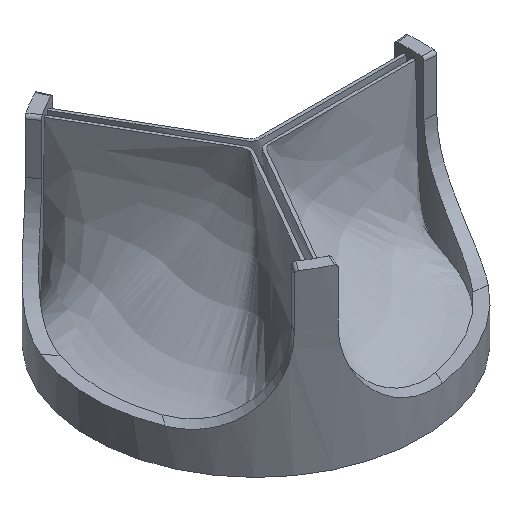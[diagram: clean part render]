
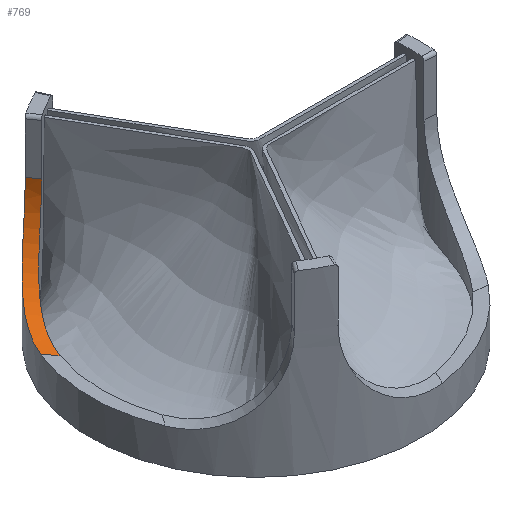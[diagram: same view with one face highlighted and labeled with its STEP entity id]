
A CAD part, isometric view. The second image highlights one B-rep face of the part: STEP entity #769.
In plain terms, the highlighted cylindrical face has radius 7.5 mm (diameter 15 mm), a partial arc.
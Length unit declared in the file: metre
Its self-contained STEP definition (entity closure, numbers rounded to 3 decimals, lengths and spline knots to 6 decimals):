
#39=CYLINDRICAL_SURFACE('',#844,0.0075);
#87=LINE('',#2533,#129);
#109=LINE('',#2609,#151);
#129=VECTOR('',#921,1.);
#151=VECTOR('',#981,1.);
#372=ORIENTED_EDGE('',*,*,#451,.F.);
#373=ORIENTED_EDGE('',*,*,#499,.F.);
#374=ORIENTED_EDGE('',*,*,#512,.F.);
#375=ORIENTED_EDGE('',*,*,#468,.F.);
#451=EDGE_CURVE('',#564,#565,#630,.T.);
#468=EDGE_CURVE('',#565,#579,#87,.T.);
#499=EDGE_CURVE('',#599,#564,#109,.F.);
#512=EDGE_CURVE('',#579,#599,#648,.T.);
#564=VERTEX_POINT('',#2465);
#565=VERTEX_POINT('',#2473);
#579=VERTEX_POINT('',#2530);
#599=VERTEX_POINT('',#2608);
#630=B_SPLINE_CURVE_WITH_KNOTS('',3,(#2466,#2467,#2468,#2469,#2470,#2471,
#2472),.UNSPECIFIED.,.F.,.F.,(4,1,1,1,4),(0.,0.003047,0.006093,
0.00914,0.012186),.UNSPECIFIED.);
#648=B_SPLINE_CURVE_WITH_KNOTS('',3,(#2664,#2665,#2666,#2667,#2668,#2669,
#2670),.UNSPECIFIED.,.F.,.F.,(4,1,1,1,4),(0.,0.003029,
0.006058,0.009088,0.012117),
 .UNSPECIFIED.);
#685=EDGE_LOOP('',(#372,#373,#374,#375));
#727=FACE_BOUND('',#685,.T.);
#769=ADVANCED_FACE('',(#727),#39,.F.);
#844=AXIS2_PLACEMENT_3D('',#2679,#1006,#1007);
#921=DIRECTION('',(-0.582,0.814,0.));
#981=DIRECTION('',(-0.582,0.814,0.));
#1006=DIRECTION('',(0.582,-0.814,0.));
#1007=DIRECTION('',(0.814,0.582,0.));
#2465=CARTESIAN_POINT('',(-0.007589,0.010617,0.009));
#2466=CARTESIAN_POINT('',(-0.007589,0.010617,0.009));
#2467=CARTESIAN_POINT('',(-0.007589,0.010617,0.00797));
#2468=CARTESIAN_POINT('',(-0.007939,0.010378,0.005941));
#2469=CARTESIAN_POINT('',(-0.009324,0.009226,0.003379));
#2470=CARTESIAN_POINT('',(-0.011053,0.007145,0.001788));
#2471=CARTESIAN_POINT('',(-0.011971,0.005298,0.0015));
#2472=CARTESIAN_POINT('',(-0.012312,0.004327,0.0015));
#2473=CARTESIAN_POINT('',(-0.012312,0.004327,0.0015));
#2530=CARTESIAN_POINT('',(-0.01301,0.005304,0.0015));
#2533=CARTESIAN_POINT('',(-0.014272,0.007069,0.0015));
#2608=CARTESIAN_POINT('',(-0.00817,0.01143,0.009));
#2609=CARTESIAN_POINT('',(-0.007601,0.010633,0.009));
#2664=CARTESIAN_POINT('',(-0.01301,0.005304,0.0015));
#2665=CARTESIAN_POINT('',(-0.012624,0.006251,0.0015));
#2666=CARTESIAN_POINT('',(-0.011644,0.008043,0.001803));
#2667=CARTESIAN_POINT('',(-0.009893,0.010062,0.003405));
#2668=CARTESIAN_POINT('',(-0.008516,0.011194,0.005958));
#2669=CARTESIAN_POINT('',(-0.00817,0.01143,0.007976));
#2670=CARTESIAN_POINT('',(-0.00817,0.01143,0.009));
#2679=CARTESIAN_POINT('',(-0.006101,-0.004361,0.009));
